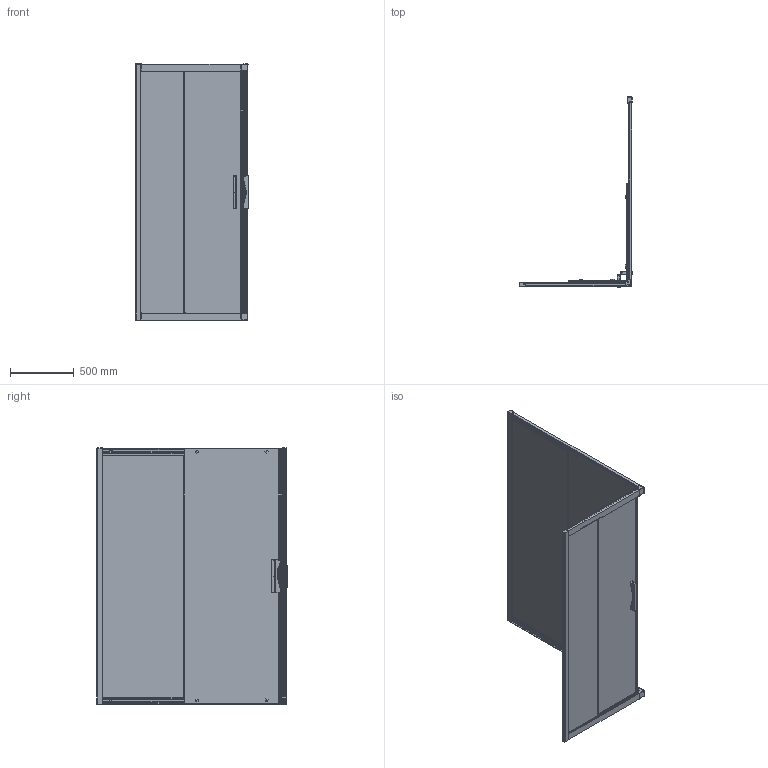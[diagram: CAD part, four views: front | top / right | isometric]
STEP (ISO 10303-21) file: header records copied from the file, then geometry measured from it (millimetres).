
FILE_DESCRIPTION(/* description */ (''),/* implementation_level */ '2;1');
FILE_NAME(/* name */ 'D:\Работа\Сергей\! Готово\Документация и модели всех серий\KUBELE динамические модели и набор документов\19 NEW\KÜBELE DE019RС\KÜBELE DE019RС-3D.stp',/* time_stamp */ '2019-06-16T15:08:48+03:00',/* author */ ('User'),/* organization */ (''),/* preprocessor_version */ 'ST-DEVELOPER v15.2',/* originating_system */ 'Autodesk Inventor 2014',/* authorisation */ '');
FILE_SCHEMA (('CONFIG_CONTROL_DESIGN'));
Products named in the file (1): KÜBELE DE019RС-3D
Bounding box: 888.89 x 1488.89 x 2002.5 mm (x, y, z)
Topology: 1 solids, 86 shells, 3326 faces, 8851 edges, 5743 vertices
Faces by surface type: plane 1815, cylinder 948, bspline 251, torus 126, cone 102, sphere 84
Full cylindrical faces by diameter (mm): 3 x4, 3.7 x12, 8.4 x8, 9.5 x16, 10 x4, 13.2 x8, 14 x16, 16.5 x16, 18 x16, 19 x24, 22 x8, 28.7 x8, 30 x16
Entity records: 124423 total; most frequent: CARTESIAN_POINT 39295, ORIENTED_EDGE 17224, DIRECTION 16488, EDGE_CURVE 8602, VERTEX_POINT 5671, AXIS2_PLACEMENT_3D 5561, LINE 5366, VECTOR 5366
